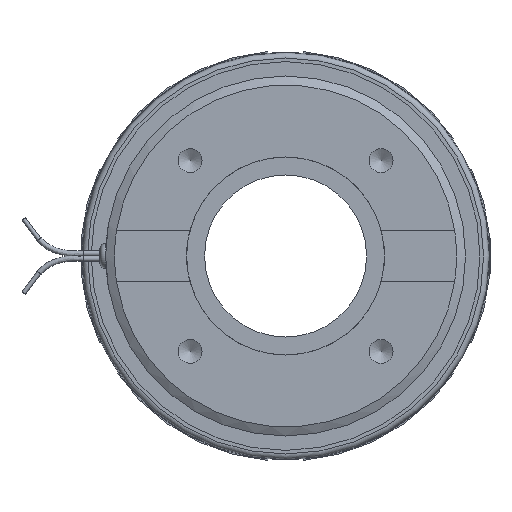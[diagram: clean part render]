
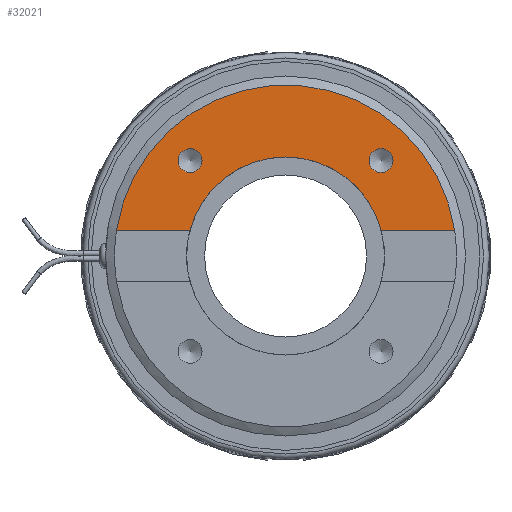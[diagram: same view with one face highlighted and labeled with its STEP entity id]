
A CAD part, left-side view. The second image highlights one B-rep face of the part: STEP entity #32021.
In plain terms, the highlighted planar face has unit normal (-1, 0, 0).
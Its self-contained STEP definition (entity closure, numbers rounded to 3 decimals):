
#1880=FACE_BOUND('',#9307,.T.);
#1881=FACE_BOUND('',#9308,.T.);
#1975=LINE('',#50977,#3898);
#1976=LINE('',#50981,#3899);
#3898=VECTOR('',#38928,20.387);
#3899=VECTOR('',#38931,20.387);
#5812=PLANE('',#33854);
#7512=FACE_OUTER_BOUND('',#9306,.T.);
#9306=EDGE_LOOP('',(#21104,#21105,#21106,#21107));
#9307=EDGE_LOOP('',(#21108));
#9308=EDGE_LOOP('',(#21109));
#11134=CIRCLE('',#33844,3.324);
#11136=CIRCLE('',#33848,3.324);
#11140=CIRCLE('',#33855,47.5);
#11141=CIRCLE('',#33856,27.5);
#12497=VERTEX_POINT('',#50954);
#12499=VERTEX_POINT('',#50960);
#12505=VERTEX_POINT('',#50975);
#12506=VERTEX_POINT('',#50976);
#12507=VERTEX_POINT('',#50978);
#12508=VERTEX_POINT('',#50980);
#15919=EDGE_CURVE('',#12497,#12497,#11134,.T.);
#15921=EDGE_CURVE('',#12499,#12499,#11136,.T.);
#15927=EDGE_CURVE('',#12505,#12506,#1975,.T.);
#15928=EDGE_CURVE('',#12507,#12506,#11140,.T.);
#15929=EDGE_CURVE('',#12507,#12508,#1976,.T.);
#15930=EDGE_CURVE('',#12508,#12505,#11141,.T.);
#21104=ORIENTED_EDGE('',*,*,#15927,.T.);
#21105=ORIENTED_EDGE('',*,*,#15928,.F.);
#21106=ORIENTED_EDGE('',*,*,#15929,.T.);
#21107=ORIENTED_EDGE('',*,*,#15930,.T.);
#21108=ORIENTED_EDGE('',*,*,#15921,.T.);
#21109=ORIENTED_EDGE('',*,*,#15919,.T.);
#32021=ADVANCED_FACE('',(#7512,#1880,#1881),#5812,.T.);
#33844=AXIS2_PLACEMENT_3D('',#50955,#38904,#38905);
#33848=AXIS2_PLACEMENT_3D('',#50961,#38912,#38913);
#33854=AXIS2_PLACEMENT_3D('',#50974,#38926,#38927);
#33855=AXIS2_PLACEMENT_3D('',#50979,#38929,#38930);
#33856=AXIS2_PLACEMENT_3D('',#50982,#38932,#38933);
#38904=DIRECTION('center_axis',(1.,0.,0.));
#38905=DIRECTION('ref_axis',(0.,0.,1.));
#38912=DIRECTION('center_axis',(1.,0.,0.));
#38913=DIRECTION('ref_axis',(0.,0.,1.));
#38926=DIRECTION('center_axis',(-1.,0.,0.));
#38927=DIRECTION('ref_axis',(0.,0.,1.));
#38928=DIRECTION('',(0.,-1.,0.));
#38929=DIRECTION('center_axis',(1.,0.,0.));
#38930=DIRECTION('ref_axis',(0.,1.,0.));
#38931=DIRECTION('',(0.,-1.,0.));
#38932=DIRECTION('center_axis',(1.,0.,0.));
#38933=DIRECTION('ref_axis',(0.,1.,0.));
#50954=CARTESIAN_POINT('',(-15.,-26.517,29.84));
#50955=CARTESIAN_POINT('Origin',(-15.,-26.517,26.517));
#50960=CARTESIAN_POINT('',(-15.,26.517,29.84));
#50961=CARTESIAN_POINT('Origin',(-15.,26.517,26.517));
#50974=CARTESIAN_POINT('Origin',(-15.,37.5,0.));
#50975=CARTESIAN_POINT('',(-15.,-26.594,7.));
#50976=CARTESIAN_POINT('',(-15.,-46.981,7.));
#50977=CARTESIAN_POINT('',(-15.,-14.267,7.));
#50978=CARTESIAN_POINT('',(-15.,46.981,7.));
#50979=CARTESIAN_POINT('Origin',(-15.,0.,0.));
#50980=CARTESIAN_POINT('',(-15.,26.594,7.));
#50981=CARTESIAN_POINT('',(-15.,-14.267,7.));
#50982=CARTESIAN_POINT('Origin',(-15.,0.,0.));
